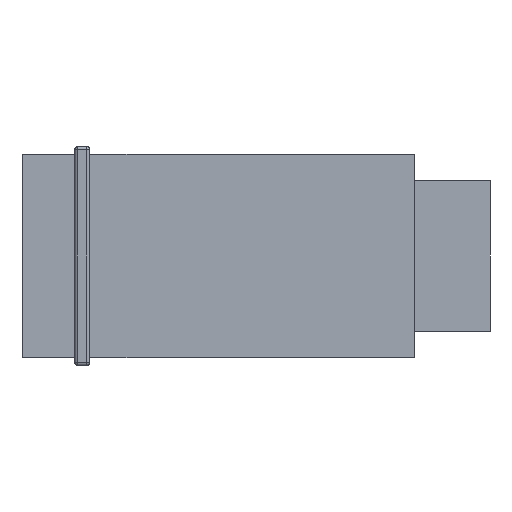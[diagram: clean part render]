
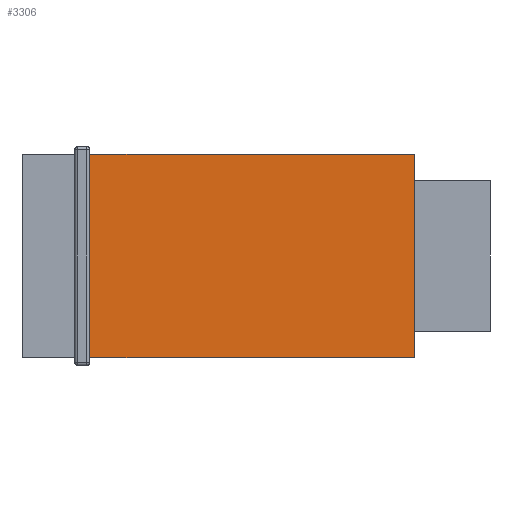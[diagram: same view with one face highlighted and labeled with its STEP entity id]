
A CAD part, left-side view. The second image highlights one B-rep face of the part: STEP entity #3306.
In plain terms, the highlighted planar face has unit normal (-1, 0, 0).
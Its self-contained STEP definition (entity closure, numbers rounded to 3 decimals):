
#163 = CARTESIAN_POINT ( 'NONE',  ( 0., 21.5, 0. ) ) ;
#478 = VERTEX_POINT ( 'NONE', #14112 ) ;
#1595 = FACE_OUTER_BOUND ( 'NONE', #6319, .T. ) ;
#1630 = EDGE_CURVE ( 'NONE', #6666, #478, #13850, .T. ) ;
#2175 = ORIENTED_EDGE ( 'NONE', *, *, #4990, .T. ) ;
#2643 = DIRECTION ( 'NONE',  ( 0., -1., 0. ) ) ;
#2759 = VECTOR ( 'NONE', #2643, 1000. ) ;
#2914 = LINE ( 'NONE', #4088, #15985 ) ;
#2971 = DIRECTION ( 'NONE',  ( 1., 0., 0. ) ) ;
#3156 = LINE ( 'NONE', #5197, #2759 ) ;
#3306 = ADVANCED_FACE ( 'NONE', ( #1595 ), #9326, .F. ) ;
#3366 = AXIS2_PLACEMENT_3D ( 'NONE', #11697, #2971, #11856 ) ;
#3755 = CARTESIAN_POINT ( 'NONE',  ( 0., 26., 13.5 ) ) ;
#3812 = VERTEX_POINT ( 'NONE', #8251 ) ;
#4088 = CARTESIAN_POINT ( 'NONE',  ( 0., 0., 9.75 ) ) ;
#4990 = EDGE_CURVE ( 'NONE', #6666, #5793, #3156, .T. ) ;
#5197 = CARTESIAN_POINT ( 'NONE',  ( 0., 0., 0. ) ) ;
#5371 = DIRECTION ( 'NONE',  ( 0., 0., -1. ) ) ;
#5793 = VERTEX_POINT ( 'NONE', #11286 ) ;
#6319 = EDGE_LOOP ( 'NONE', ( #7599, #2175, #16226, #7638 ) ) ;
#6666 = VERTEX_POINT ( 'NONE', #163 ) ;
#7161 = VECTOR ( 'NONE', #13995, 1000. ) ;
#7587 = DIRECTION ( 'NONE',  ( 0., -1., 0. ) ) ;
#7599 = ORIENTED_EDGE ( 'NONE', *, *, #1630, .F. ) ;
#7638 = ORIENTED_EDGE ( 'NONE', *, *, #13262, .F. ) ;
#8251 = CARTESIAN_POINT ( 'NONE',  ( 0., 0., 13.5 ) ) ;
#8977 = CARTESIAN_POINT ( 'NONE',  ( 0., 21.5, 0. ) ) ;
#9148 = EDGE_CURVE ( 'NONE', #3812, #5793, #2914, .T. ) ;
#9326 = PLANE ( 'NONE',  #3366 ) ;
#11286 = CARTESIAN_POINT ( 'NONE',  ( 0., 0., 0. ) ) ;
#11697 = CARTESIAN_POINT ( 'NONE',  ( 0., 0., 9.75 ) ) ;
#11856 = DIRECTION ( 'NONE',  ( 0., 0., -1. ) ) ;
#13262 = EDGE_CURVE ( 'NONE', #478, #3812, #15088, .T. ) ;
#13850 = LINE ( 'NONE', #8977, #7161 ) ;
#13995 = DIRECTION ( 'NONE',  ( 0., 0., 1. ) ) ;
#14112 = CARTESIAN_POINT ( 'NONE',  ( 0., 21.5, 13.5 ) ) ;
#14687 = VECTOR ( 'NONE', #7587, 1000. ) ;
#15088 = LINE ( 'NONE', #3755, #14687 ) ;
#15985 = VECTOR ( 'NONE', #5371, 1000. ) ;
#16226 = ORIENTED_EDGE ( 'NONE', *, *, #9148, .F. ) ;
